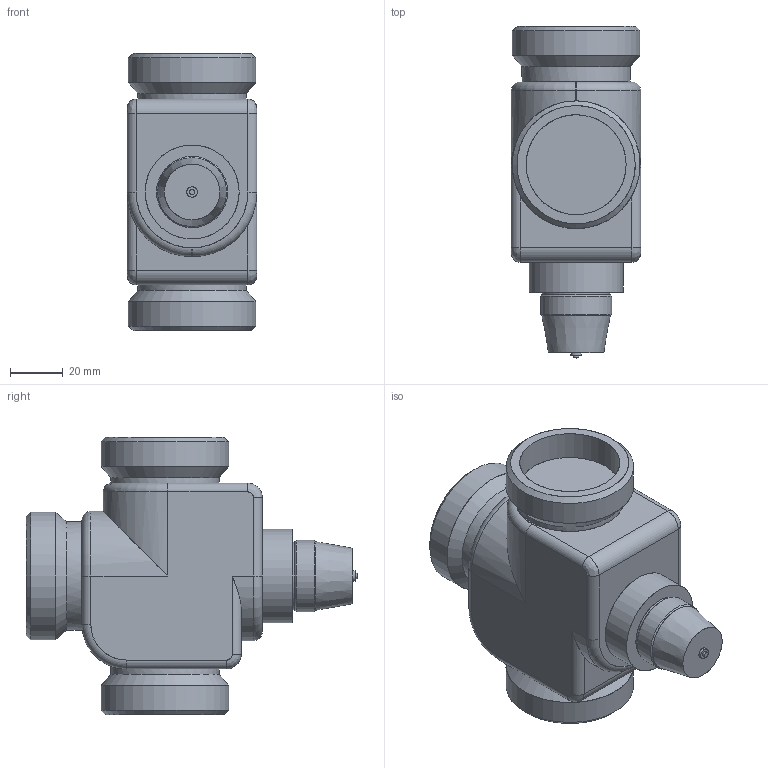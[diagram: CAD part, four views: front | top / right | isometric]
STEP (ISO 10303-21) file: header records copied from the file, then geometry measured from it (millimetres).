
FILE_DESCRIPTION(/* description */ (''),/* implementation_level */ '2;1');
FILE_NAME(/* name */ 'VXG44 DN25.stp',/* time_stamp */ '2013-10-01T15:05:04+02:00',/* author */ (''),/* organization */ (''),/* preprocessor_version */ 'ST-DEVELOPER v11',/* originating_system */ 'SIEMENS UGS NX 6.0',/* authorisation */ '');
FILE_SCHEMA (('AUTOMOTIVE_DESIGN { 1 0 10303 214 1 1 1 1 }'));
Length unit declared in the file: millimetre
Products named in the file (1): model2
Bounding box: 49.01 x 125.5 x 105 mm (x, y, z)
Surface area: 46269.7 mm2 (no closed solid volume)
Topology: 0 solids, 88 shells, 88 faces, 438 edges, 416 vertices
Faces by surface type: cylinder 36, plane 31, cone 9, torus 8, bspline 4
Full cylindrical faces by diameter (mm): 2 x1, 4 x1, 25.5 x1, 26.9 x1, 35.541 x1, 37.811 x3, 41.02 x3, 48.3 x3
Entity records: 6476 total; most frequent: CARTESIAN_POINT 2732, DIRECTION 554, ORIENTED_EDGE 415, VERTEX_POINT 415, EDGE_CURVE 415, AXIS2_PLACEMENT_3D 230, B_SPLINE_CURVE_WITH_KNOTS 160, CIRCLE 145
